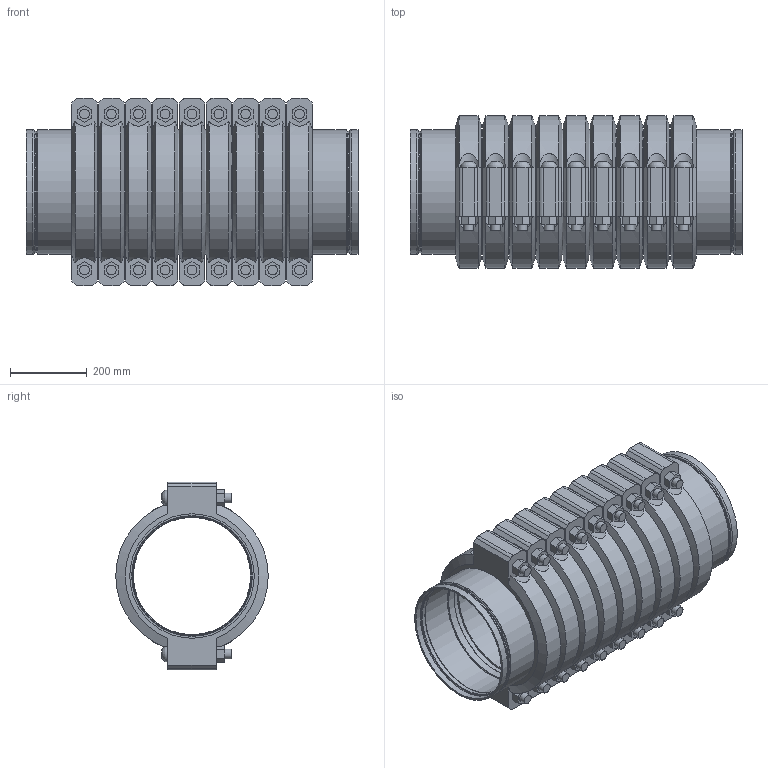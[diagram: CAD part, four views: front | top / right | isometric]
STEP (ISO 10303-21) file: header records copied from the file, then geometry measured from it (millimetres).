
FILE_DESCRIPTION(/* description */ ('VIC STRENGTHIN 100 EXPANSION JOINT 9 COUPLINGS COMPRESSED STYLE E155 (ST1)','CAx-IF Rec.Pracs.---Representation and Presentation of Product Manufacturing Information (PMI)---4.0---2014-10-13'),/* implementation_level */ '2;1');
FILE_NAME(/* name */ 'C:\Users\Vjadhav\AppData\Roaming\Autodesk\ApplicationPlugins\Victaulic.Temp\A705\Victaulic_SS-StrengThin 100_Expansion Joint_Compressed_9 Couplings_Style E155 (ST1)_12 (300).stp',/* time_stamp */ '2021-07-23T12:37:49+05:00',/* author */ ('kkamble'),/* organization */ ('Victaulic'),/* preprocessor_version */ 'ST-DEVELOPER v17.2',/* originating_system */ 'Autodesk Inventor 2019',/* authorisation */ '');
FILE_SCHEMA (('AP242_MANAGED_MODEL_BASED_3D_ENGINEERING_MIM_LF { 1 0 10303 442 1 1 4 }'));
Length unit declared in the file: inch
Products named in the file (4): E155-12.0; E494G-12.0; Nipple-12.0; 077-12.0
Assembly tree (19 placements, depth 2):
  E155-12.0
    E494G-12.0  x2
    Nipple-12.0  x8
    077-12.0  x9
Bounding box: 864.36 x 397 x 488.95 mm (x, y, z)
Volume: 36860135.7 mm3; surface area: 4802108.6 mm2
Topology: 19 solids, 37 shells, 679 faces, 1721 edges, 1212 vertices
Faces by surface type: plane 368, cylinder 221, cone 40, torus 32, bspline 18
Full cylindrical faces by diameter (mm): 25.4 x36, 27.432 x18, 304.8 x8, 306.426 x2, 308.737 x2, 314.3 x6, 315.976 x2, 318.287 x18, 323.85 x39
Entity records: 4018 total; most frequent: CARTESIAN_POINT 824, DIRECTION 685, ORIENTED_EDGE 568, AXIS2_PLACEMENT_3D 296, EDGE_CURVE 284, VERTEX_POINT 205, CIRCLE 171, EDGE_LOOP 129
